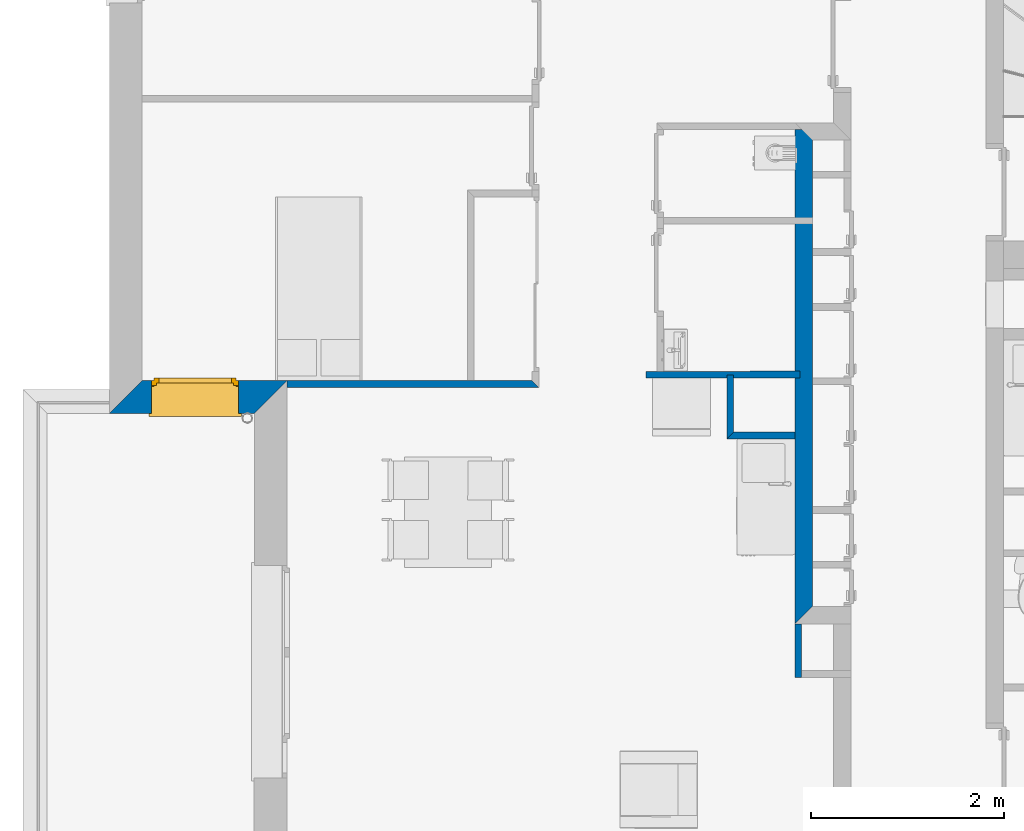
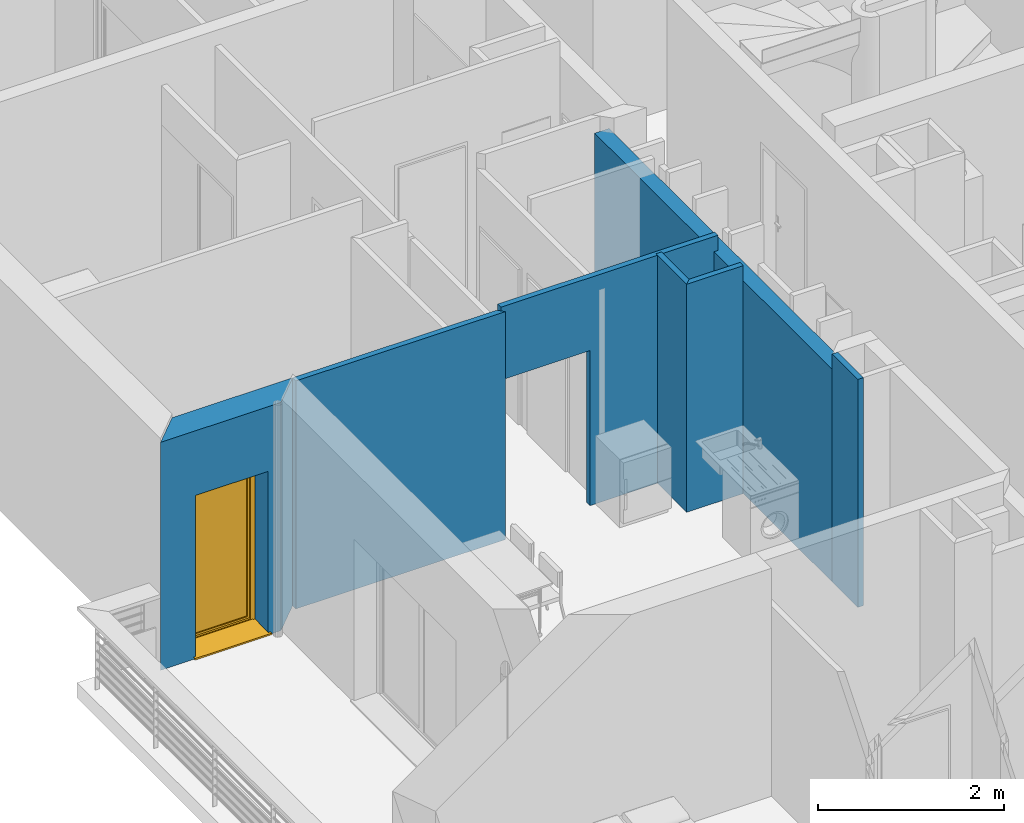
# One storey, part 22 of 165: 7 walls, 1 window, 2 openings.
"""IFC2X3 building model written with IfcOpenShell, lengths in millimetres."""

from ifc_helpers import new_model, entity, si_unit, converted_unit, derived_unit, money_unit, direction, frame, origin_with_axes, origin_2d_with_axis, place, context, subcontext, project, spatial, polyline, rectangle, outline, extrude, open_shell, faceted_brep, surface_model, source, transform, mapped, material, layer, layer_set, layer_usage, type_object, element, fill, save


model = new_model("IFC2X3")

# Units and contexts
model_context = context("Model", 3, precision=0.01, world=origin_with_axes(), true_north=direction((0.0, 1.0)))
body_context = subcontext(model_context, "Body", "Model", "MODEL_VIEW")
ifc_project = project(units=[si_unit("LENGTHUNIT", "METRE", prefix="MILLI"), si_unit("AREAUNIT", "SQUARE_METRE"), si_unit("VOLUMEUNIT", "CUBIC_METRE"), converted_unit("PLANEANGLEUNIT", "DEGREE", entity("IfcPlaneAngleMeasure", 0.0174532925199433), si_unit("PLANEANGLEUNIT", "RADIAN"), dimensions=[0, 0, 0, 0, 0, 0, 0]), money_unit("USD"), converted_unit("TIMEUNIT", "Year", entity("IfcTimeMeasure", 31557600.0), si_unit("TIMEUNIT", "SECOND"), dimensions=[0, 0, 1, 0, 0, 0, 0]), si_unit("MASSUNIT", "GRAM", prefix="KILO"), si_unit("THERMODYNAMICTEMPERATUREUNIT", "DEGREE_CELSIUS"), si_unit("LUMINOUSINTENSITYUNIT", "LUMEN"), si_unit("ENERGYUNIT", "JOULE", prefix="MEGA"), derived_unit("THERMALCONDUCTANCEUNIT", [(si_unit("POWERUNIT", "WATT"), 1), (si_unit("LENGTHUNIT", "METRE"), -1), (si_unit("THERMODYNAMICTEMPERATUREUNIT", "KELVIN"), -1)]), derived_unit("SPECIFICHEATCAPACITYUNIT", [(si_unit("ENERGYUNIT", "JOULE"), 1), (si_unit("MASSUNIT", "GRAM", prefix="KILO"), -1), (si_unit("THERMODYNAMICTEMPERATUREUNIT", "KELVIN"), -1)]), derived_unit("MASSDENSITYUNIT", [(si_unit("MASSUNIT", "GRAM", prefix="KILO"), 1), (si_unit("VOLUMEUNIT", "CUBIC_METRE"), -1)])], contexts=[model_context])

# Site, building, storey
site_placement = place(None, origin_with_axes())
site = spatial("IfcSite", under=ifc_project, at=site_placement, Name="Site", CompositionType="ELEMENT")
building_placement = place(site_placement, origin_with_axes())
building = spatial("IfcBuilding", under=site, at=building_placement, Name="Bâtiment", CompositionType="ELEMENT")
storey_placement = place(building_placement, frame((0.0, 0.0, 8500.0), z_axis=(0.0, 0.0, 1.0), x_axis=(1.0, 0.0, 0.0)))
storey = spatial("IfcBuildingStorey", under=building, at=storey_placement, Name="Etage 2", CompositionType="ELEMENT", Elevation=8500.0)

# Walls
ifc_material_1 = material(Name="Parpaing 314940890")
ifc_layer_1 = layer(ifc_material_1, 180.0, ventilated="UNKNOWN")
ifc_layer_set_1 = layer_set([ifc_layer_1], Name="Beton  18 0018356637")
ifc_layer_usage_1 = layer_usage(ifc_layer_set_1, "AXIS2", "POSITIVE", 0.0)
wall_type_1 = type_object("IfcWallType", Name="Beton  18 0018356637 180", PredefinedType="NOTDEFINED")
wall_1_placement = place(storey_placement, frame((2223732.400120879, -636007.2981221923, 0.0), z_axis=(0.0, 0.0, 1.0), x_axis=(0.0, -1.0, 0.0)))
element("IfcWallStandardCase", 1, at=wall_1_placement, inside=storey, type_object=wall_type_1, material=ifc_layer_usage_1, Name="Mur-142", context=body_context, shape_type="SweptSolid", body=[
    extrude(outline(polyline([(69.99998401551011, 0.0), (5189.440402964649, 0.0), (5009.440853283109, 179.99999999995), (69.99998897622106, 179.99999999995), (69.99998401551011, 0.0)])), origin_with_axes(), (0.0, 0.0, 1.0), 2800.000000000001),
])
ifc_material_2 = material(Name="Hachure solide 268963992")
ifc_layer_2 = layer(ifc_material_2, 70.0, ventilated="UNKNOWN")
ifc_layer_set_2 = layer_set([ifc_layer_2], Name="Cloison 70 0826278243")
ifc_layer_usage_2 = layer_usage(ifc_layer_set_2, "AXIS2", "NEGATIVE", 70.0)
wall_type_2 = type_object("IfcWallType", Name="Cloison 70 0826278243 70", PredefinedType="NOTDEFINED")
wall_2_placement = place(storey_placement, frame((2221010.880277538, -638676.8076992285, 0.0), z_axis=(0.0, 0.0, 1.0), x_axis=(-1.0, 0.0, 0.0)))
element("IfcWallStandardCase", 2, at=wall_2_placement, inside=storey, type_object=wall_type_2, material=ifc_layer_usage_2, Name="Mur-149", context=body_context, shape_type="SweptSolid", body=[
    extrude(outline(polyline([(0.0, 0.0), (2536.646899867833, 0.0), (2536.646899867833, 69.99999999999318), (-70.00091326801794, 69.99999999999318), (0.0, 0.0)])), origin_with_axes(), (0.0, 0.0, 1.0), 3000.0),
])
ifc_layer_usage_3 = layer_usage(ifc_layer_set_2, "AXIS2", "NEGATIVE", 70.0)
wall_3_placement = place(storey_placement, frame((2223029.148647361, -638616.7973015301, 0.0), z_axis=(0.0, 0.0, 1.0), x_axis=(0.0, -1.0, 0.0)))
element("IfcWallStandardCase", 3, at=wall_3_placement, inside=storey, type_object=wall_type_2, material=ifc_layer_usage_3, Name="Mur-149", context=body_context, shape_type="SweptSolid", body=[
    extrude(outline(polyline([(0.0, 0.0), (663.555495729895, 0.0), (593.5554957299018, 70.00000000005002), (0.0, 70.00000000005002), (0.0, 0.0)])), origin_with_axes(), (0.0, 0.0, 1.0), 3000.0),
])

# Wall, opening
ifc_layer_usage_4 = layer_usage(ifc_layer_set_2, "AXIS2", "POSITIVE", -70.0)
wall_4_placement = place(storey_placement, frame((2223783.307678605, -638649.3890085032, 0.0), z_axis=(0.0, 0.0, 1.0), x_axis=(-0.9999995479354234, -0.0009508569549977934, 0.0)))
wall_4 = element("IfcWallStandardCase", 4, at=wall_4_placement, inside=storey, type_object=wall_type_2, material=ifc_layer_usage_4, Name="Mur-149", context=body_context, shape_type="SweptSolid", body=[
    extrude(outline(polyline([(0.0, -69.99999999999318), (2702.363300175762, -69.99999999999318), (2702.428946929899, 0.0), (0.0, 0.0), (0.0, -69.99999999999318)])), origin_with_axes(), (0.0, 0.0, 1.0), 3000.0),
])
opening_1_placement = place(wall_4_placement, frame((2148.465303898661, 0.0, 0.0), z_axis=(0.0, 0.0, 1.0), x_axis=(1.0, 0.0, 0.0)))
element("IfcOpeningElement", 5, at=opening_1_placement, cuts=wall_4, Name="Por-278", context=body_context, shape_type="SweptSolid", body=[
    extrude(rectangle(XDim=1107.927286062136, YDim=2039.999999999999, at=origin_2d_with_axis()), frame((-1.13686837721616e-10, 0.0, 1020.0), z_axis=(0.0, -1.0, 0.0), x_axis=(1.0, 0.0, 0.0)), (0.0, 0.0, -1.0), 70.0),
    extrude(rectangle(XDim=1107.927286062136, YDim=2039.999999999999, at=origin_2d_with_axis()), frame((-1.13686837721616e-10, 0.0, 1020.0), z_axis=(0.0, 1.0, 0.0), x_axis=(1.0, 0.0, 0.0)), (0.0, 0.0, -1.0), 70.0),
])

# Walls
ifc_layer_usage_5 = layer_usage(ifc_layer_set_2, "AXIS2", "NEGATIVE", 70.0)
wall_5_placement = place(storey_placement, frame((2223732.399912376, -639210.3527972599, 0.0), z_axis=(0.0, 0.0, 1.0), x_axis=(-1.0, 0.0, 0.0)))
element("IfcWallStandardCase", 6, at=wall_5_placement, inside=storey, type_object=wall_type_2, material=ifc_layer_usage_5, Name="Mur-149", context=body_context, shape_type="SweptSolid", body=[
    extrude(outline(polyline([(-0.0002085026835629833, 0.0), (633.2512650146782, 0.0), (703.2512650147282, 69.99999999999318), (-0.0002085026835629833, 69.99999999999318), (-0.0002085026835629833, 0.0)])), origin_with_axes(), (0.0, 0.0, 1.0), 3000.0),
])
ifc_layer_usage_6 = layer_usage(ifc_layer_set_2, "AXIS2", "NEGATIVE", 0.0)
wall_6_placement = place(storey_placement, frame((2223732.413331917, -641750.3527776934, 0.0), z_axis=(0.0, 0.0, 1.0), x_axis=(-2.386325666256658e-05, 0.9999999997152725, 0.0)))
element("IfcWallStandardCase", 7, at=wall_6_placement, inside=storey, type_object=wall_type_2, material=ifc_layer_usage_6, Name="Mur-121", context=body_context, shape_type="SweptSolid", body=[
    extrude(outline(polyline([(0.0, -70.00000000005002), (553.6124071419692, -69.99999999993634), (553.614252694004, 0.0), (0.0, 0.0), (0.0, -70.00000000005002)])), origin_with_axes(), (0.0, 0.0, 1.0), 3000.0),
])

# Wall, opening, window
ifc_material_3 = material(Name="Parpaing 312445824")
ifc_layer_3 = layer(ifc_material_3, 180.0, ventilated="UNKNOWN")
ifc_material_4 = material(Name="Isolant styromousse 301821074")
ifc_layer_4 = layer(ifc_material_4, 160.0, ventilated="UNKNOWN")
ifc_layer_set_3 = layer_set([ifc_layer_3, ifc_layer_4], Name="isol int 18+16 0018356637")
ifc_layer_usage_7 = layer_usage(ifc_layer_set_3, "AXIS2", "POSITIVE", 0.0)
wall_type_3 = type_object("IfcWallType", Name="isol int 18+16 0018356637 340", PredefinedType="NOTDEFINED")
wall_7_placement = place(storey_placement, frame((2216634.31405057, -639016.8076992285, 0.0), z_axis=(0.0, 0.0, 1.0), x_axis=(1.0, 0.0, 0.0)))
wall_7 = element("IfcWallStandardCase", 8, at=wall_7_placement, inside=storey, type_object=wall_type_3, material=ifc_layer_usage_7, Name="Mur-143", context=body_context, shape_type="SweptSolid", body=[
    extrude(outline(polyline([(9.094947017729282e-10, 0.0), (1500.000000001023, 0.0), (1840.005488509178, 340.0000000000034), (339.9979387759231, 340.0000000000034), (9.094947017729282e-10, 0.0)])), origin_with_axes(), (0.0, 0.0, 1.0), 3000.0),
])
opening_2_placement = place(wall_7_placement, frame((887.6559521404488, 0.0, 0.0), z_axis=(0.0, 0.0, 1.0), x_axis=(1.0, 0.0, 0.0)))
opening_2 = element("IfcOpeningElement", 9, at=opening_2_placement, cuts=wall_7, Name="Fen-209", context=body_context, shape_type="Brep", body=[
    faceted_brep([(-449.9999999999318, 341.0000000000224, 2150.0), (450.0000000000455, 341.0000000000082, 2150.0), (450.0000000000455, 341.0000000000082, 0.0), (-450.0000000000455, 341.0000000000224, 0.0), (-449.9999999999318, 530.0000000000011, 2150.0), (450.0000000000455, 529.9999999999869, 2150.0), (450.0000000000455, 289.999999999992, 2150.0), (450.0000000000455, 289.999999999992, 0.0), (450.0000000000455, -1.000000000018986, 0.0), (-450.0000000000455, -1.000000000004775, 0.0), (-450.0000000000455, 290.0000000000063, 0.0), (-449.9999999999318, 290.0000000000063, 2150.0), (-449.9999999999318, 280.0000000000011, 2150.0), (-449.9999999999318, 280.0000000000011, 2400.0), (-449.9999999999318, 530.0000000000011, 2400.0), (450.0000000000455, 529.9999999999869, 2400.0), (450.0000000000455, 279.9999999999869, 2400.0), (450.0000000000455, 279.9999999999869, 2150.0), (450.0000000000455, -1.000000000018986, 2150.0), (-450.0000000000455, -1.000000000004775, 2150.0)], [[[0, 1, 2, 3]], [[1, 0, 4, 5]], [[1, 6, 7, 2]], [[7, 8, 9, 10, 3, 2]], [[11, 0, 3, 10]], [[0, 11, 12, 13, 14, 4]], [[4, 14, 15, 5]], [[6, 1, 5, 15, 16, 17]], [[6, 17, 18, 8, 7]], [[19, 9, 8, 18]], [[12, 11, 10, 9, 19]], [[12, 17, 16, 13]], [[14, 13, 16, 15]], [[17, 12, 19, 18]]]),
])
window_style = type_object("IfcWindowStyle", Name="Fenêtre 27", ConstructionType="NOTDEFINED", OperationType="SINGLE_PANEL", ParameterTakesPrecedence=False, Sizeable=False)
shared_shape = source(origin_with_axes(), body_context, "Body", "SurfaceModel", [
    surface_model("IfcShellBasedSurfaceModel", [(-450.0, -51.00000000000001, 40.00000000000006), (450.0, -51.00000000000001, 40.0), (450.0, -51.00000000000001, 50.0), (-450.0, -51.00000000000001, 50.00000000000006), (-480.0, -369.9999999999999, 28.96551724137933), (480.0, -369.9999999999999, 28.96551724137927), (480.0, -339.9999999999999, 30.00324289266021), (450.0, -339.9999999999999, 30.00324289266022), (-450.0, -339.9999999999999, 30.00324289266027), (-480.0, -339.9999999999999, 30.00324289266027), (-480.0, -369.9999999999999, 8.965517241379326), (480.0, -369.9999999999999, 8.965517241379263), (-480.0, -359.9999999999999, 18.96551724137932), (480.0, -359.9999999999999, 18.96551724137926)], [open_shell([[[0, 1, 2, 3]], [[4, 5, 6, 7, 1, 0, 8, 9]], [[10, 11, 5, 4]], [[12, 13, 11, 10]]])]),
    faceted_brep([(450.0, -59.99999999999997, 2400.0), (450.0, 190.0, 2400.0), (447.0, 190.0, 2400.0), (447.0, -59.99999999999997, 2400.0), (450.0, -59.99999999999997, 2150.0), (450.0, 190.0, 2150.0), (447.0, 190.0, 2150.0), (447.0, -59.99999999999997, 2150.0)], [[[0, 1, 2, 3]], [[0, 4, 5, 1]], [[1, 5, 6, 2]], [[3, 2, 6, 7]], [[4, 0, 3, 7]], [[5, 4, 7, 6]]]),
    faceted_brep([(-447.0, -59.99999999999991, 2400.0), (-447.0, 190.0000000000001, 2400.0), (-450.0, 190.0000000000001, 2400.0), (-450.0, -59.99999999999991, 2400.0), (-447.0, -59.99999999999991, 2150.0), (-447.0, 190.0000000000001, 2150.0), (-450.0, 190.0000000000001, 2150.0), (-450.0, -59.99999999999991, 2150.0)], [[[0, 1, 2, 3]], [[0, 4, 5, 1]], [[1, 5, 6, 2]], [[3, 2, 6, 7]], [[4, 0, 3, 7]], [[5, 4, 7, 6]]]),
    faceted_brep([(447.0, -59.99999999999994, 2150.0), (447.0, -59.99999999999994, 2400.0), (-447.0, -59.99999999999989, 2400.0), (-447.0, -59.99999999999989, 2150.0), (447.0, -56.99999999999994, 2150.0), (447.0, -56.99999999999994, 2397.0), (447.0, 187.0000000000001, 2397.0), (447.0, 187.0000000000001, 2153.0), (447.0, -37.99999999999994, 2153.0), (447.0, -37.99999999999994, 2150.0), (447.0, 190.0000000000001, 2150.0), (447.0, 190.0000000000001, 2400.0), (-447.0, 190.0000000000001, 2400.0), (-447.0, 190.0000000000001, 2150.0), (-447.0, -37.99999999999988, 2150.0), (-447.0, -37.99999999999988, 2153.0), (-447.0, 187.0000000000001, 2153.0), (-447.0, 187.0000000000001, 2397.0), (-447.0, -56.99999999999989, 2397.0), (-447.0, -56.99999999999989, 2150.0)], [[[0, 1, 2, 3]], [[0, 4, 5, 6, 7, 8, 9, 10, 11, 1]], [[1, 11, 12, 2]], [[3, 2, 12, 13, 14, 15, 16, 17, 18, 19]], [[4, 0, 3, 19]], [[5, 4, 19, 18]], [[6, 5, 18, 17]], [[7, 6, 17, 16]], [[8, 7, 16, 15]], [[9, 8, 15, 14]], [[10, 9, 14, 13]], [[11, 10, 13, 12]]]),
    faceted_brep([(444.0, -40.374429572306, 2256.419644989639), (444.0, -35.54711042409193, 2238.403844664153), (444.0, -27.6647182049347, 2221.5), (444.0, -16.96675541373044, 2206.22172576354), (444.0, -3.778274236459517, 2193.033244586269), (444.0, 11.50000000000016, 2182.335281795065), (444.0, 28.40384466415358, 2174.452889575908), (444.0, 46.41964498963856, 2169.625570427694), (444.0, 65.00000000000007, 2168.0), (444.0, 83.5803550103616, 2169.625570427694), (444.0, 101.5961553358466, 2174.452889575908), (444.0, 118.5, 2182.335281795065), (444.0, 133.7782742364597, 2193.033244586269), (444.0, 146.9667554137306, 2206.22172576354), (444.0, 157.6647182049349, 2221.5), (444.0, 165.5471104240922, 2238.403844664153), (444.0, 170.3744295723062, 2256.419644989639), (444.0, 172.0, 2275.0), (444.0, 170.3744295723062, 2293.580355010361), (444.0, 165.5471104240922, 2311.596155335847), (444.0, 157.6647182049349, 2328.5), (444.0, 146.9667554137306, 2343.77827423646), (444.0, 133.7782742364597, 2356.96675541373), (444.0, 118.5, 2367.664718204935), (444.0, 101.5961553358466, 2375.547110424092), (444.0, 83.58035501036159, 2380.374429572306), (444.0, 65.00000000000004, 2382.0), (444.0, 46.4196449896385, 2380.374429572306), (444.0, 28.4038446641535, 2375.547110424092), (444.0, 11.50000000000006, 2367.664718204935), (444.0, -3.778274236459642, 2356.96675541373), (444.0, -16.96675541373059, 2343.77827423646), (444.0, -27.66471820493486, 2328.5), (444.0, -35.54711042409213, 2311.596155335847), (444.0, -40.37442957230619, 2293.580355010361), (444.0, -41.99999999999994, 2275.0), (-444.0, -40.37442957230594, 2256.419644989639), (-444.0, -35.54711042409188, 2238.403844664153), (-444.0, -27.66471820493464, 2221.5), (-444.0, -16.96675541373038, 2206.22172576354), (-444.0, -3.778274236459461, 2193.033244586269), (-444.0, 11.50000000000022, 2182.335281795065), (-444.0, 28.40384466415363, 2174.452889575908), (-444.0, 46.41964498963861, 2169.625570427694), (-444.0, 65.00000000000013, 2168.0), (-444.0, 83.58035501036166, 2169.625570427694), (-444.0, 101.5961553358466, 2174.452889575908), (-444.0, 118.5000000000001, 2182.335281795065), (-444.0, 133.7782742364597, 2193.033244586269), (-444.0, 146.9667554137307, 2206.22172576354), (-444.0, 157.6647182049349, 2221.5), (-444.0, 165.5471104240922, 2238.403844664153), (-444.0, 170.3744295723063, 2256.419644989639), (-444.0, 172.0, 2275.0), (-444.0, 170.3744295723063, 2293.580355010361), (-444.0, 165.5471104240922, 2311.596155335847), (-444.0, 157.664718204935, 2328.5), (-444.0, 146.9667554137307, 2343.77827423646), (-444.0, 133.7782742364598, 2356.96675541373), (-444.0, 118.5000000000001, 2367.664718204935), (-444.0, 101.5961553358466, 2375.547110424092), (-444.0, 83.58035501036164, 2380.374429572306), (-444.0, 65.0000000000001, 2382.0), (-444.0, 46.41964498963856, 2380.374429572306), (-444.0, 28.40384466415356, 2375.547110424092), (-444.0, 11.50000000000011, 2367.664718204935), (-444.0, -3.778274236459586, 2356.96675541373), (-444.0, -16.96675541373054, 2343.77827423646), (-444.0, -27.66471820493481, 2328.5), (-444.0, -35.54711042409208, 2311.596155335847), (-444.0, -40.37442957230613, 2293.580355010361), (-444.0, -41.99999999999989, 2275.0)], [[[0, 1, 2, 3, 4, 5, 6, 7, 8, 9, 10, 11, 12, 13, 14, 15, 16, 17, 18, 19, 20, 21, 22, 23, 24, 25, 26, 27, 28, 29, 30, 31, 32, 33, 34, 35]], [[1, 0, 36, 37]], [[2, 1, 37, 38]], [[3, 2, 38, 39]], [[4, 3, 39, 40]], [[5, 4, 40, 41]], [[6, 5, 41, 42]], [[7, 6, 42, 43]], [[8, 7, 43, 44]], [[9, 8, 44, 45]], [[10, 9, 45, 46]], [[11, 10, 46, 47]], [[12, 11, 47, 48]], [[13, 12, 48, 49]], [[14, 13, 49, 50]], [[15, 14, 50, 51]], [[16, 15, 51, 52]], [[17, 16, 52, 53]], [[18, 17, 53, 54]], [[19, 18, 54, 55]], [[20, 19, 55, 56]], [[21, 20, 56, 57]], [[22, 21, 57, 58]], [[23, 22, 58, 59]], [[24, 23, 59, 60]], [[25, 24, 60, 61]], [[26, 25, 61, 62]], [[27, 26, 62, 63]], [[28, 27, 63, 64]], [[29, 28, 64, 65]], [[30, 29, 65, 66]], [[31, 30, 66, 67]], [[32, 31, 67, 68]], [[33, 32, 68, 69]], [[34, 33, 69, 70]], [[35, 34, 70, 71]], [[0, 35, 71, 36]], [[36, 71, 70, 69, 68, 67, 66, 65, 64, 63, 62, 61, 60, 59, 58, 57, 56, 55, 54, 53, 52, 51, 50, 49, 48, 47, 46, 45, 44, 43, 42, 41, 40, 39, 38, 37]]]),
    faceted_brep([(-450.0, -34.99999999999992, 30.0), (-450.0, -59.99999999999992, 30.0), (-450.0, -59.99999999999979, 2150.0), (-450.0, -34.99999999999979, 2150.0), (-425.0, -34.99999999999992, 30.0), (-425.0, -37.99999999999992, 30.0), (-447.0, -37.99999999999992, 30.0), (-447.0, -56.99999999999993, 30.0), (-425.0, -56.99999999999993, 30.0), (-425.0, -59.99999999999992, 30.0), (-425.0, -59.99999999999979, 2150.0), (-425.0, -56.99999999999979, 2150.0), (-447.0, -56.99999999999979, 2150.0), (-447.0, -37.99999999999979, 2150.0), (-425.0, -37.99999999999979, 2150.0), (-425.0, -34.99999999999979, 2150.0)], [[[0, 1, 2, 3]], [[0, 4, 5, 6, 7, 8, 9, 1]], [[1, 9, 10, 2]], [[3, 2, 10, 11, 12, 13, 14, 15]], [[4, 0, 3, 15]], [[5, 4, 15, 14]], [[6, 5, 14, 13]], [[7, 6, 13, 12]], [[8, 7, 12, 11]], [[9, 8, 11, 10]]]),
    faceted_brep([(450.0, -34.99999999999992, 30.0), (450.0, -34.99999999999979, 2150.0), (450.0, -59.99999999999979, 2150.0), (450.0, -59.99999999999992, 30.0), (425.0, -34.99999999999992, 30.0), (425.0, -34.99999999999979, 2150.0), (425.0, -37.99999999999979, 2150.0), (447.0, -37.99999999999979, 2150.0), (447.0, -56.99999999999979, 2150.0), (425.0, -56.99999999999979, 2150.0), (425.0, -59.99999999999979, 2150.0), (425.0, -59.99999999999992, 30.0), (425.0, -56.99999999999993, 30.0), (447.0, -56.99999999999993, 30.0), (447.0, -37.99999999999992, 30.0), (425.0, -37.99999999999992, 30.0)], [[[0, 1, 2, 3]], [[4, 5, 1, 0]], [[1, 5, 6, 7, 8, 9, 10, 2]], [[3, 2, 10, 11]], [[0, 3, 11, 12, 13, 14, 15, 4]], [[15, 6, 5, 4]], [[14, 7, 6, 15]], [[13, 8, 7, 14]], [[12, 9, 8, 13]], [[11, 10, 9, 12]]]),
    faceted_brep([(-447.0, -46.66666666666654, 2275.0), (447.0, -46.6666666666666, 2275.0), (447.0, -46.6666666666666, 2266.666666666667), (-447.0, -46.66666666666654, 2266.666666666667), (-447.0, -51.66666666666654, 2275.0), (447.0, -51.6666666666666, 2275.0), (447.0, -51.6666666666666, 2266.666666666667), (447.0, -49.99999999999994, 2250.0), (447.0, -44.99999999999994, 2250.0), (-447.0, -44.99999999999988, 2250.0), (-447.0, -49.99999999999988, 2250.0), (-447.0, -51.66666666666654, 2266.666666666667)], [[[0, 1, 2, 3]], [[1, 0, 4, 5]], [[1, 5, 6, 7, 8, 2]], [[2, 8, 9, 3]], [[4, 0, 3, 9, 10, 11]], [[6, 5, 4, 11]], [[7, 6, 11, 10]], [[8, 7, 10, 9]]]),
    faceted_brep([(447.0, -44.99999999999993, 2250.0), (447.0, -46.6666666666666, 2233.333333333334), (-447.0, -46.66666666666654, 2233.333333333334), (-447.0, -44.99999999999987, 2250.0), (447.0, -49.99999999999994, 2250.0), (447.0, -51.6666666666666, 2233.333333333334), (447.0, -51.6666666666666, 2216.666666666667), (447.0, -49.99999999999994, 2200.0), (447.0, -44.99999999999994, 2200.0), (447.0, -46.6666666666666, 2216.666666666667), (-447.0, -46.66666666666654, 2216.666666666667), (-447.0, -44.99999999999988, 2200.0), (-447.0, -49.99999999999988, 2200.0), (-447.0, -51.66666666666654, 2216.666666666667), (-447.0, -51.66666666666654, 2233.333333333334), (-447.0, -49.99999999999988, 2250.0)], [[[0, 1, 2, 3]], [[0, 4, 5, 6, 7, 8, 9, 1]], [[1, 9, 10, 2]], [[3, 2, 10, 11, 12, 13, 14, 15]], [[4, 0, 3, 15]], [[5, 4, 15, 14]], [[6, 5, 14, 13]], [[7, 6, 13, 12]], [[8, 7, 12, 11]], [[9, 8, 11, 10]]]),
    faceted_brep([(447.0, -44.99999999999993, 2200.0), (447.0, -46.6666666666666, 2183.333333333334), (-447.0, -46.66666666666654, 2183.333333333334), (-447.0, -44.99999999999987, 2200.0), (447.0, -49.99999999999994, 2200.0), (447.0, -51.6666666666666, 2183.333333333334), (447.0, -51.6666666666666, 2166.666666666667), (447.0, -49.99999999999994, 2150.000000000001), (447.0, -44.99999999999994, 2150.000000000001), (447.0, -46.6666666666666, 2166.666666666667), (-447.0, -46.66666666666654, 2166.666666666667), (-447.0, -44.99999999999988, 2150.000000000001), (-447.0, -49.99999999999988, 2150.000000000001), (-447.0, -51.66666666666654, 2166.666666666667), (-447.0, -51.66666666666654, 2183.333333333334), (-447.0, -49.99999999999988, 2200.0)], [[[0, 1, 2, 3]], [[0, 4, 5, 6, 7, 8, 9, 1]], [[1, 9, 10, 2]], [[3, 2, 10, 11, 12, 13, 14, 15]], [[4, 0, 3, 15]], [[5, 4, 15, 14]], [[6, 5, 14, 13]], [[7, 6, 13, 12]], [[8, 7, 12, 11]], [[9, 8, 11, 10]]]),
    faceted_brep([(425.0000000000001, 0.0, 2100.0), (425.0000000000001, -25.00000000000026, 2100.0), (400.0, -25.00000000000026, 2100.0), (400.0, -50.00000000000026, 2100.0), (450.0, -50.00000000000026, 2100.0), (450.0, 0.0, 2100.0), (425.0000000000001, 0.0, 50.00000000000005), (425.0000000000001, -25.00000000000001, 50.00000000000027), (400.0, -25.00000000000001, 50.00000000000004), (400.0, -50.00000000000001, 50.00000000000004), (450.0, -50.00000000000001, 50.00000000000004), (450.0, 0.0, 50.00000000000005)], [[[0, 1, 2, 3, 4, 5]], [[1, 0, 6, 7]], [[8, 2, 1, 7]], [[2, 8, 9, 3]], [[4, 3, 9, 10]], [[5, 4, 10, 11]], [[6, 0, 5, 11]], [[7, 6, 11, 10, 9, 8]]]),
    faceted_brep([(-400.0, -25.00000000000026, 2100.0), (-425.0000000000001, -25.00000000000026, 2100.0), (-425.0000000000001, 0.0, 2100.0), (-450.0, 0.0, 2100.0), (-450.0, -50.00000000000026, 2100.0), (-400.0, -50.00000000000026, 2100.0), (-400.0, -25.00000000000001, 50.00000000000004), (-425.0000000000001, -25.00000000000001, 50.00000000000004), (-425.0000000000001, 0.0, 50.00000000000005), (-450.0, 0.0, 50.00000000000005), (-450.0, -50.00000000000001, 50.00000000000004), (-400.0, -50.00000000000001, 50.00000000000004)], [[[0, 1, 2, 3, 4, 5]], [[1, 0, 6, 7]], [[8, 2, 1, 7]], [[2, 8, 9, 3]], [[9, 10, 4, 3]], [[10, 11, 5, 4]], [[6, 0, 5, 11]], [[7, 6, 11, 10, 9, 8]]]),
    faceted_brep([(-400.0, -25.00000000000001, 50.00000000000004), (-425.0000000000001, -25.00000000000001, 50.00000000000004), (-425.0000000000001, 0.0, 50.00000000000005), (-450.0, 0.0, 50.00000000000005), (-450.0, -50.00000000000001, 50.00000000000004), (-400.0, -50.00000000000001, 50.00000000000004), (400.0, -25.00000000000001, 50.00000000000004), (425.0000000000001, -25.00000000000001, 50.00000000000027), (425.0000000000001, -25.0, 24.99999999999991), (-425.0000000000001, -25.0, 24.99999999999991), (-425.0000000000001, 0.0, 24.99999999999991), (425.0000000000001, 0.0, 24.99999999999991), (425.0000000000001, 0.0, 50.00000000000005), (450.0, 0.0, 50.00000000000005), (450.0, 0.0, 0.0), (-450.0, 0.0, 0.0), (-450.0, -50.0, 0.0), (450.0, -50.00000000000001, 50.00000000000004), (400.0, -50.00000000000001, 50.00000000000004), (450.0, -50.0, 0.0)], [[[0, 1, 2, 3, 4, 5]], [[1, 0, 6, 7, 8, 9]], [[10, 2, 1, 9]], [[11, 12, 13, 14, 15, 3, 2, 10]], [[15, 16, 4, 3]], [[17, 18, 5, 4, 16, 19]], [[6, 0, 5, 18]], [[7, 6, 18, 17, 13, 12]], [[7, 12, 11, 8]], [[11, 10, 9, 8]], [[13, 17, 19, 14]], [[14, 19, 16, 15]]]),
    faceted_brep([(425.0000000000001, 0.0, 2100.0), (425.0000000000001, 0.0, 2125.0), (-425.0000000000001, 0.0, 2125.0), (-425.0000000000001, 0.0, 2100.0), (-450.0, 0.0, 2100.0), (-450.0, 0.0, 2150.0), (450.0, 0.0, 2150.0), (450.0, 0.0, 2100.0), (425.0000000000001, -25.00000000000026, 2100.0), (425.0000000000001, -25.00000000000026, 2125.0), (-425.0000000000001, -25.00000000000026, 2125.0), (-425.0000000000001, -25.00000000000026, 2100.0), (-400.0, -25.00000000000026, 2100.0), (-400.0, -50.00000000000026, 2100.0), (-450.0, -50.00000000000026, 2100.0), (-450.0, -50.00000000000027, 2150.0), (450.0, -50.00000000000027, 2150.0), (450.0, -50.00000000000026, 2100.0), (400.0, -50.00000000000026, 2100.0), (400.0, -25.00000000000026, 2100.0)], [[[0, 1, 2, 3, 4, 5, 6, 7]], [[1, 0, 8, 9]], [[2, 1, 9, 10]], [[3, 2, 10, 11]], [[11, 12, 13, 14, 4, 3]], [[4, 14, 15, 5]], [[5, 15, 16, 6]], [[6, 16, 17, 7]], [[8, 0, 7, 17, 18, 19]], [[12, 11, 10, 9, 8, 19]], [[12, 19, 18, 13]], [[14, 13, 18, 17, 16, 15]]]),
    faceted_brep([(375.0000000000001, -25.00000000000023, 2075.0), (425.0000000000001, -25.00000000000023, 2075.0), (425.0000000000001, 24.99999999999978, 2075.0), (375.0000000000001, 24.99999999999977, 2075.0), (375.0000000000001, -24.99999999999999, 75.00000000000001), (425.0000000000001, -24.99999999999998, 75.00000000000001), (425.0000000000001, 25.00000000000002, 75.00000000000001), (375.0000000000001, 25.00000000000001, 75.00000000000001)], [[[0, 1, 2, 3]], [[0, 4, 5, 1]], [[1, 5, 6, 2]], [[3, 2, 6, 7]], [[4, 0, 3, 7]], [[5, 4, 7, 6]]]),
    faceted_brep([(-375.0000000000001, -25.00000000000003, 75.00000000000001), (-425.0000000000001, -25.00000000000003, 75.00000000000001), (-425.0000000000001, 24.99999999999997, 75.00000000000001), (-375.0000000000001, 24.99999999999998, 75.00000000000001), (-375.0000000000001, -25.00000000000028, 2075.0), (-425.0000000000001, -25.00000000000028, 2075.0), (-425.0000000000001, 24.99999999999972, 2075.0), (-375.0000000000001, 24.99999999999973, 2075.0)], [[[0, 1, 2, 3]], [[0, 4, 5, 1]], [[1, 5, 6, 2]], [[3, 2, 6, 7]], [[4, 0, 3, 7]], [[5, 4, 7, 6]]]),
    faceted_brep([(-425.0000000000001, -25.00000000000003, 25.0), (-425.0000000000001, -25.00000000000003, 75.00000000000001), (-425.0000000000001, 24.99999999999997, 75.00000000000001), (-425.0000000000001, 24.99999999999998, 25.00000000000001), (425.0000000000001, -24.99999999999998, 25.0), (425.0000000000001, -24.99999999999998, 75.00000000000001), (375.0000000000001, -24.99999999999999, 75.00000000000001), (-375.0000000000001, -25.00000000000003, 75.00000000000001), (-375.0000000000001, 24.99999999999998, 75.00000000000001), (375.0000000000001, 25.00000000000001, 75.00000000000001), (425.0000000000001, 25.00000000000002, 75.00000000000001), (425.0000000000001, 25.00000000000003, 25.00000000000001)], [[[0, 1, 2, 3]], [[0, 4, 5, 6, 7, 1]], [[1, 7, 8, 2]], [[3, 2, 8, 9, 10, 11]], [[4, 0, 3, 11]], [[5, 4, 11, 10]], [[6, 5, 10, 9]], [[7, 6, 9, 8]]]),
    faceted_brep([(425.0000000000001, -25.00000000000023, 2125.0), (425.0000000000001, -25.00000000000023, 2075.0), (425.0000000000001, 24.99999999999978, 2075.0), (425.0000000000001, 24.99999999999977, 2125.0), (-425.0000000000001, -25.00000000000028, 2125.0), (-425.0000000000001, -25.00000000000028, 2075.0), (-375.0000000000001, -25.00000000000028, 2075.0), (375.0000000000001, -25.00000000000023, 2075.0), (375.0000000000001, 24.99999999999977, 2075.0), (-375.0000000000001, 24.99999999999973, 2075.0), (-425.0000000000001, 24.99999999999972, 2075.0), (-425.0000000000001, 24.99999999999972, 2125.0)], [[[0, 1, 2, 3]], [[0, 4, 5, 6, 7, 1]], [[1, 7, 8, 2]], [[3, 2, 8, 9, 10, 11]], [[4, 0, 3, 11]], [[5, 4, 11, 10]], [[6, 5, 10, 9]], [[7, 6, 9, 8]]]),
    surface_model("IfcShellBasedSurfaceModel", [(375.0000000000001, -10.00000000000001, 75.00000000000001), (375.0000000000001, -10.00000000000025, 2075.0), (-375.0000000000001, -10.00000000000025, 2075.0), (-375.0000000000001, -10.00000000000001, 75.00000000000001)], [open_shell([[[0, 1, 2, 3]]])]),
    surface_model("IfcShellBasedSurfaceModel", [(375.0000000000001, 9.999999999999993, 75.00000000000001), (-375.0000000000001, 9.999999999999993, 75.00000000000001), (-375.0000000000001, 9.99999999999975, 2075.0), (375.0000000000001, 9.99999999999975, 2075.0)], [open_shell([[[0, 1, 2, 3]]])]),
])
window_placement = place(opening_2_placement, frame((-450.0000000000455, 0.0, 0.0), z_axis=(0.0, 0.0, 1.0), x_axis=(1.0, 0.0, 0.0)))
window = element("IfcWindow", 10, at=window_placement, inside=storey, type_object=window_style, Name="Fen-209", OverallHeight=2150.0, OverallWidth=900.0, context=body_context, shape_type="MappedRepresentation", body=[
    mapped(shared_shape, transform((450.0000000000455, 339.999999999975, 0.0))),
])
fill(opening_2, window)

save(model, "model.ifc")
